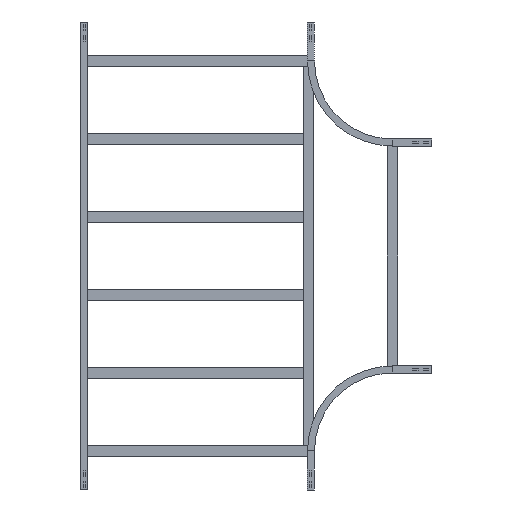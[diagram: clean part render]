
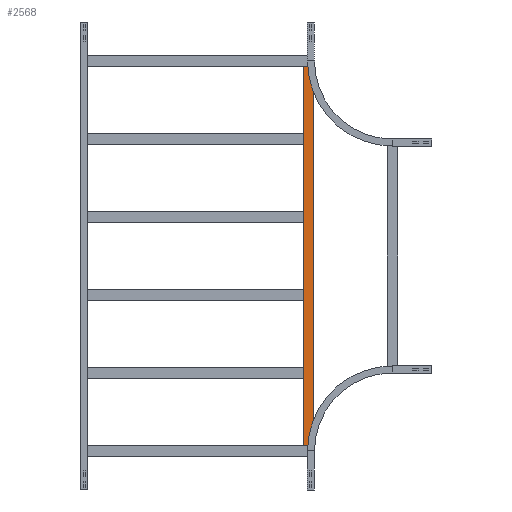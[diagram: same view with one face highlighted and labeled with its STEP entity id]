
A CAD part, front view. The second image highlights one B-rep face of the part: STEP entity #2568.
In plain terms, the highlighted planar face has unit normal (0, -1, 0).
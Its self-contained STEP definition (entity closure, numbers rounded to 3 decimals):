
#27 = DIRECTION ( 'NONE',  ( 0., 0., -1. ) ) ;
#48 = ORIENTED_EDGE ( 'NONE', *, *, #2319, .F. ) ;
#105 = PLANE ( 'NONE',  #183 ) ;
#183 = AXIS2_PLACEMENT_3D ( 'NONE', #1040, #363, #1317 ) ;
#230 = VERTEX_POINT ( 'NONE', #3385 ) ;
#363 = DIRECTION ( 'NONE',  ( 0., 1., 0. ) ) ;
#372 = EDGE_CURVE ( 'NONE', #3759, #230, #2732, .T. ) ;
#480 = VECTOR ( 'NONE', #3496, 1000. ) ;
#607 = LINE ( 'NONE', #2941, #1868 ) ;
#624 = DIRECTION ( 'NONE',  ( -1., 0., 0. ) ) ;
#656 = CARTESIAN_POINT ( 'NONE',  ( 729.75, 0., 20.25 ) ) ;
#696 = CARTESIAN_POINT ( 'NONE',  ( -729.75, 0., 20.25 ) ) ;
#800 = ORIENTED_EDGE ( 'NONE', *, *, #372, .T. ) ;
#832 = VECTOR ( 'NONE', #27, 1000. ) ;
#1012 = VECTOR ( 'NONE', #1394, 1000. ) ;
#1040 = CARTESIAN_POINT ( 'NONE',  ( 729.75, 0., 20.25 ) ) ;
#1052 = EDGE_CURVE ( 'NONE', #3232, #2177, #3666, .T. ) ;
#1157 = CARTESIAN_POINT ( 'NONE',  ( -729.75, 0., 20.25 ) ) ;
#1317 = DIRECTION ( 'NONE',  ( 0., 0., 1. ) ) ;
#1394 = DIRECTION ( 'NONE',  ( 0., 0., -1. ) ) ;
#1734 = CARTESIAN_POINT ( 'NONE',  ( 729.75, 0., -20.25 ) ) ;
#1868 = VECTOR ( 'NONE', #624, 1000. ) ;
#1910 = FACE_OUTER_BOUND ( 'NONE', #3176, .T. ) ;
#2177 = VERTEX_POINT ( 'NONE', #3458 ) ;
#2319 = EDGE_CURVE ( 'NONE', #2177, #230, #3555, .T. ) ;
#2568 = ADVANCED_FACE ( 'NONE', ( #1910 ), #105, .F. ) ;
#2732 = LINE ( 'NONE', #1157, #832 ) ;
#2941 = CARTESIAN_POINT ( 'NONE',  ( 729.75, 0., 20.25 ) ) ;
#3009 = CARTESIAN_POINT ( 'NONE',  ( 729.75, 0., 20.25 ) ) ;
#3176 = EDGE_LOOP ( 'NONE', ( #800, #48, #3418, #3867 ) ) ;
#3232 = VERTEX_POINT ( 'NONE', #3009 ) ;
#3266 = EDGE_CURVE ( 'NONE', #3232, #3759, #607, .T. ) ;
#3385 = CARTESIAN_POINT ( 'NONE',  ( -729.75, 0., -20.25 ) ) ;
#3418 = ORIENTED_EDGE ( 'NONE', *, *, #1052, .F. ) ;
#3458 = CARTESIAN_POINT ( 'NONE',  ( 729.75, 0., -20.25 ) ) ;
#3496 = DIRECTION ( 'NONE',  ( -1., 0., 0. ) ) ;
#3555 = LINE ( 'NONE', #1734, #480 ) ;
#3666 = LINE ( 'NONE', #656, #1012 ) ;
#3759 = VERTEX_POINT ( 'NONE', #696 ) ;
#3867 = ORIENTED_EDGE ( 'NONE', *, *, #3266, .T. ) ;
